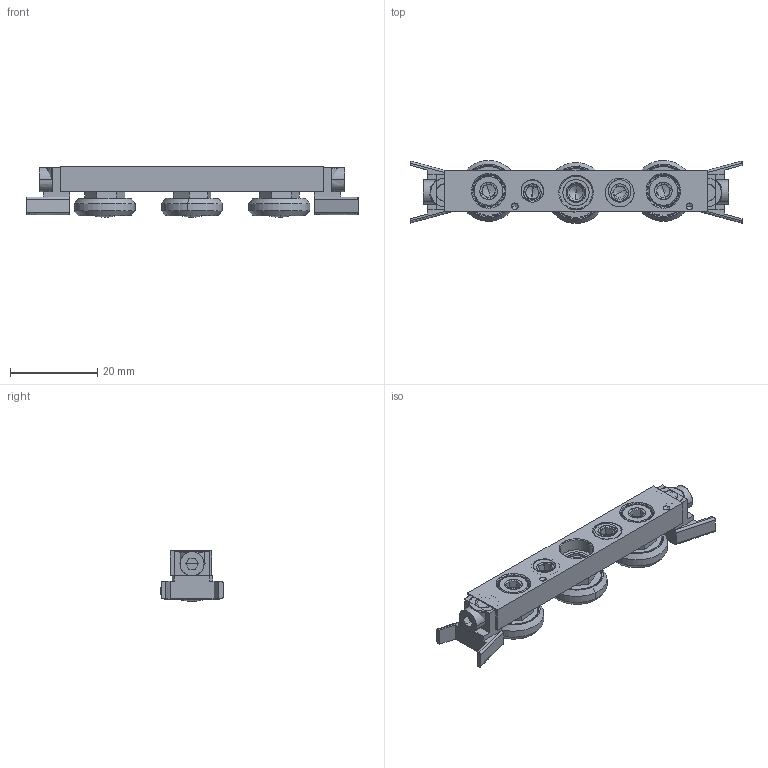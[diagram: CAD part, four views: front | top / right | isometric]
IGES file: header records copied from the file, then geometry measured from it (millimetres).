
Start section: SolidWorks IGES file using analytic representation for surfaces
Global section: file name: E:\J-00018 - L1918-L1963 LCompact Rail\L1918_v2\L1918.CSW18_v2\L1918.CSW18_IGES\L1918.CSW18-060-2RSU.igs; native system: SolidWorks 2017; preprocessor: SolidWorks 2017; author: liam_; date: 190629.230203; units: millimetre
Bounding box: 76 x 14.41 x 11.54 mm (x, y, z)
Surface area: 6500 mm2 (no closed solid volume)
Topology: 0 solids, 0 shells, 429 faces, 5208 edges, 5178 vertices
Faces by surface type: bspline 259, revolution 170
